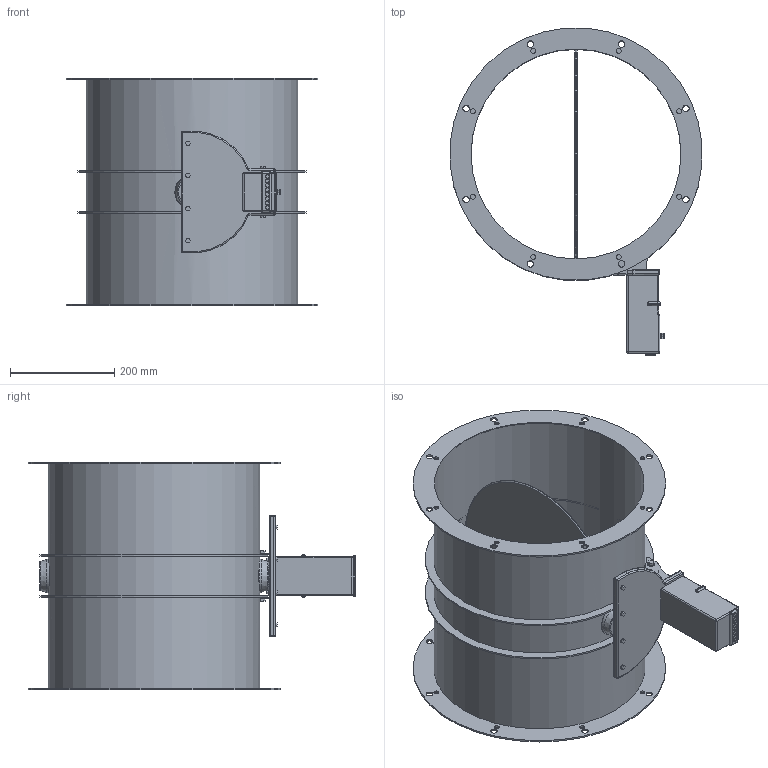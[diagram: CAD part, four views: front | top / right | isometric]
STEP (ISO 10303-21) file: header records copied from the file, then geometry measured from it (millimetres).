
FILE_DESCRIPTION( ('This file contains a STEP AP42 implementation' ,'as created by ZW3D STEP Interface translator.') ,'2;1' );
FILE_NAME( '3D Model-16_2M0 Butterfly Body with new drive.stp' ,'24 6 4.215839', (''), ('ZWCAD Software Co.'), 'Version 1.0', 'ZW3D to STEP translator', '' );
FILE_SCHEMA(('AUTOMOTIVE_DESIGN { 1 0 10303 214 1 1 1 1 }'));
Length unit declared in the file: millimetre
Products named in the file (2): 0; D璱001
Bounding box: 483.95 x 629.61 x 438 mm (x, y, z)
Volume: 3049623.9 mm3; surface area: 1844739.9 mm2
Topology: 8 solids, 9 shells, 1422 faces, 3994 edges, 2559 vertices
Faces by surface type: plane 1120, cylinder 240, bspline 48, torus 6, cone 4, sphere 4
Full cylindrical faces by diameter (mm): 5.477 x1, 6.6 x1, 7.4 x8, 8 x4, 8.7 x2, 9.5 x16, 12.5 x16, 13 x6, 402.5 x1, 403.4 x1, 406.4 x1, 485.8 x2
Entity records: 49429 total; most frequent: CARTESIAN_POINT 11415, ORIENTED_EDGE 7912, DIRECTION 7090, EDGE_CURVE 3956, VECTOR 3308, LINE 3308, VERTEX_POINT 2559, AXIS2_PLACEMENT_3D 1891
